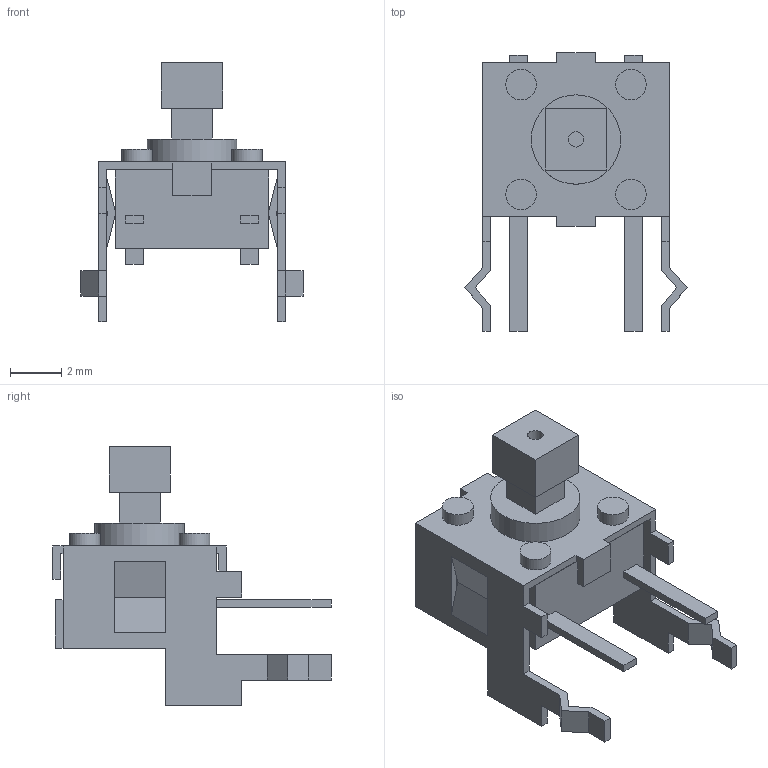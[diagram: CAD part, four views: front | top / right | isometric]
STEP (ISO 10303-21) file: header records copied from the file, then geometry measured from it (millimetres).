
FILE_DESCRIPTION(/* description */ (''),/* implementation_level */ '2;1');
FILE_NAME(/* name */ 'B3F-3152-NoButton.step',/* time_stamp */ '2024-06-18T01:04:44-07:00',/* author */ (''),/* organization */ (''),/* preprocessor_version */ 'ST-DEVELOPER v20',/* originating_system */ 'Autodesk Translation Framework v13.14.0.145',/* authorisation */ '');
FILE_SCHEMA (('AUTOMOTIVE_DESIGN { 1 0 10303 214 3 1 1 }'));
Length unit declared in the file: millimetre
Products named in the file (3): B3F-3152; B3F_3152_BUTTON; B3F_3152_BASE
Assembly tree (2 placements, depth 2):
  B3F-3152
    B3F_3152_BUTTON
    B3F_3152_BASE
Bounding box: 8.7 x 10.9 x 10.15 mm (x, y, z)
Volume: 164 mm3; surface area: 480 mm2
Topology: 2 solids, 2 shells, 129 faces, 339 edges, 222 vertices
Faces by surface type: plane 120, cylinder 9
Full cylindrical faces by diameter (mm): 0.6 x1, 1.2 x4, 3.5 x2
Entity records: 3996 total; most frequent: CARTESIAN_POINT 695, ORIENTED_EDGE 678, DIRECTION 625, EDGE_CURVE 339, LINE 321, VECTOR 321, VERTEX_POINT 222, AXIS2_PLACEMENT_3D 152
